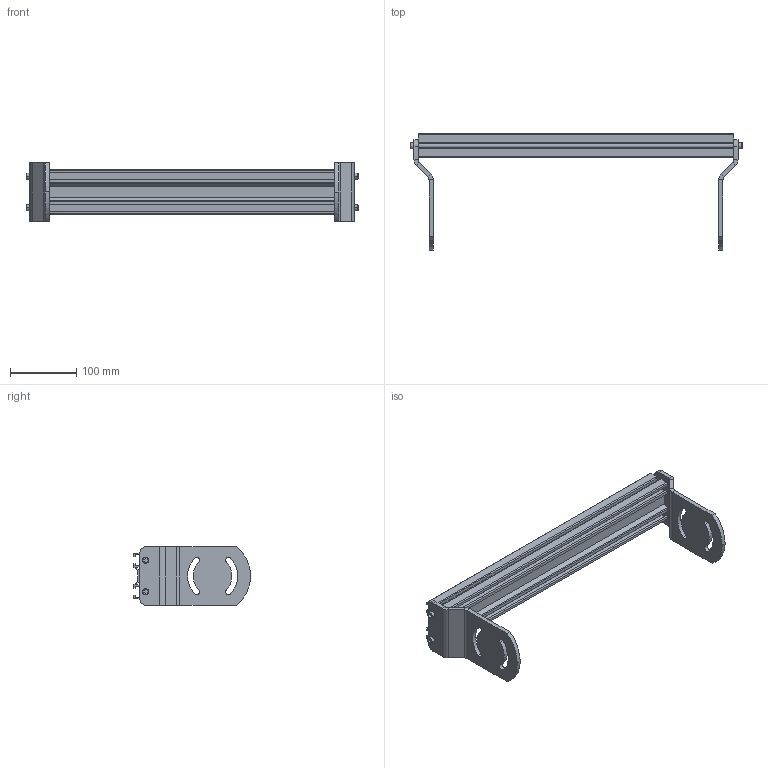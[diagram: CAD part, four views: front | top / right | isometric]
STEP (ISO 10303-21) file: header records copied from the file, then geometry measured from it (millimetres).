
FILE_DESCRIPTION((''),'2;1');
FILE_NAME('39MCM16-5_ASM','2023-03-01T',('jenni.wallner'),(''),'PRO/ENGINEER BY PARAMETRIC TECHNOLOGY CORPORATION, 2012420','PRO/ENGINEER BY PARAMETRIC TECHNOLOGY CORPORATION, 2012420','');
FILE_SCHEMA(('CONFIG_CONTROL_DESIGN'));
Length unit declared in the file: inch
Products named in the file (5): 710210_01879_1; 300825M_1; 708180P_1; 39MCM16-5_ASM_ASM_1_ASM; 39MCM16-5_ASM
Assembly tree (8 placements, depth 3):
  39MCM16-5_ASM
    39MCM16-5_ASM_ASM_1_ASM
      710210_01879_1
      300825M_1  x2
      708180P_1  x4
Bounding box: 501.97 x 176.65 x 88.93 mm (x, y, z)
Volume: 516967 mm3; surface area: 350989 mm2
Topology: 7 solids, 7 shells, 256 faces, 702 edges, 468 vertices
Faces by surface type: plane 144, cylinder 92, cone 20
Entity records: 5052 total; most frequent: CARTESIAN_POINT 890, DIRECTION 863, ORIENTED_EDGE 836, EDGE_CURVE 418, VECTOR 301, LINE 301, AXIS2_PLACEMENT_3D 281, VERTEX_POINT 276
